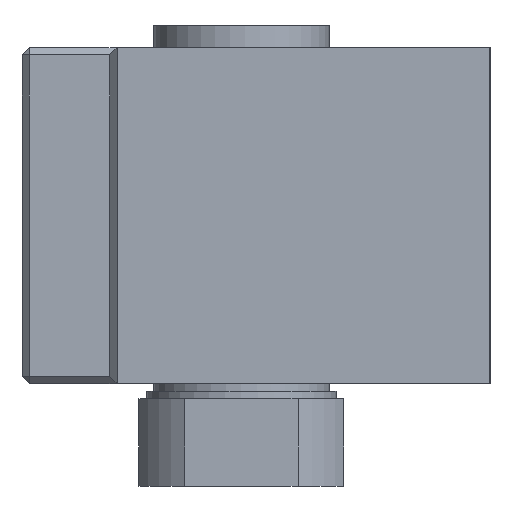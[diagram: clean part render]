
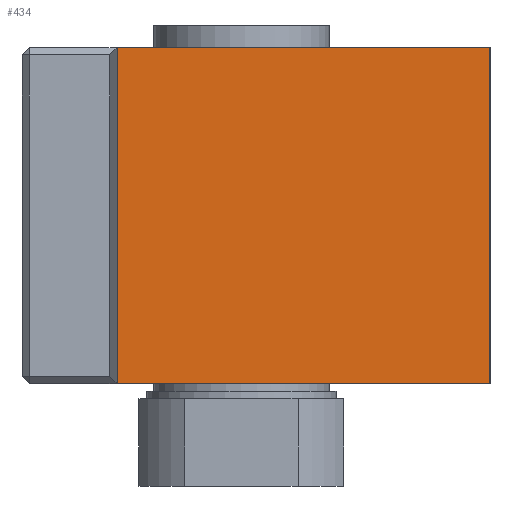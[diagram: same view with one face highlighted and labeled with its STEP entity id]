
A CAD part, left-side view. The second image highlights one B-rep face of the part: STEP entity #434.
In plain terms, the highlighted planar face has unit normal (-1, 0, 0).
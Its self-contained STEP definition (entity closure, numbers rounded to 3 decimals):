
#127=FACE_OUTER_BOUND('',#660,.T.);
#169=LINE('',#2120,#241);
#194=LINE('',#2177,#266);
#195=LINE('',#2180,#267);
#196=LINE('',#2181,#268);
#241=VECTOR('',#1553,1.);
#266=VECTOR('',#1594,1.);
#267=VECTOR('',#1595,1.);
#268=VECTOR('',#1596,1.);
#374=PLANE('',#1359);
#434=ADVANCED_FACE('',(#127),#374,.F.);
#660=EDGE_LOOP('',(#852,#853,#854,#855));
#852=ORIENTED_EDGE('',*,*,#1184,.F.);
#853=ORIENTED_EDGE('',*,*,#1185,.T.);
#854=ORIENTED_EDGE('',*,*,#1157,.T.);
#855=ORIENTED_EDGE('',*,*,#1186,.F.);
#1048=VERTEX_POINT('',#2121);
#1049=VERTEX_POINT('',#2122);
#1072=VERTEX_POINT('',#2178);
#1073=VERTEX_POINT('',#2179);
#1157=EDGE_CURVE('',#1048,#1049,#169,.T.);
#1184=EDGE_CURVE('',#1072,#1073,#194,.T.);
#1185=EDGE_CURVE('',#1072,#1048,#195,.T.);
#1186=EDGE_CURVE('',#1073,#1049,#196,.T.);
#1359=AXIS2_PLACEMENT_3D('',#2182,#1597,#1598);
#1553=DIRECTION('',(0.,-1.,0.));
#1594=DIRECTION('',(0.,-1.,0.));
#1595=DIRECTION('',(0.,0.,-1.));
#1596=DIRECTION('',(0.,0.,-1.));
#1597=DIRECTION('',(1.,0.,0.));
#1598=DIRECTION('',(0.,0.,-1.));
#2120=CARTESIAN_POINT('',(0.,26.,0.));
#2121=CARTESIAN_POINT('',(0.,25.5,0.));
#2122=CARTESIAN_POINT('',(0.,0.,0.));
#2177=CARTESIAN_POINT('',(0.,26.,23.));
#2178=CARTESIAN_POINT('',(0.,25.5,23.));
#2179=CARTESIAN_POINT('',(0.,0.,23.));
#2180=CARTESIAN_POINT('',(0.,25.5,23.));
#2181=CARTESIAN_POINT('',(0.,0.,23.));
#2182=CARTESIAN_POINT('',(0.,26.,23.));
